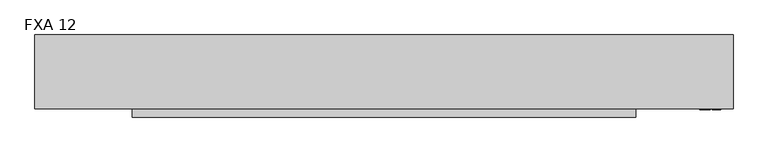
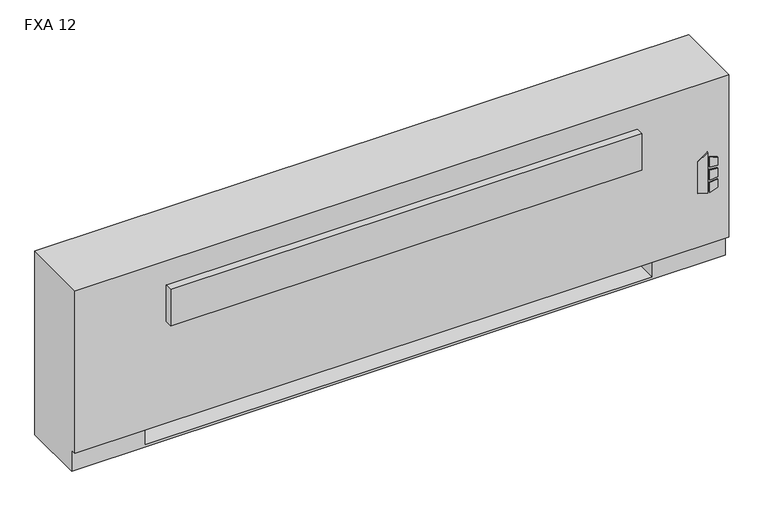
"""IFC4 building model written with IfcOpenShell, lengths in millimetres: proxy geometry, Vertical_Fan_Coil_Unit_-_FXA_-_IEC_-_4-Pipe_FS-FR_RH_2022 : FXA 12."""

from ifc_helpers import new_model, si_unit, point, frame, frame_2d, origin, place, context, project, spatial, polyline, circle_curve, trimmed, segment, composite_curve, outline, extrude, source, transform, mapped, element, save
from ifc_brep_helpers import plane_surface, revolved_surface, advanced_brep


def fxa_12_d5598fd8(model_context):
    return source(origin(), model_context, "Body", "SolidModel", [
        extrude(outline(polyline([(263.9480703, 1128.7868862), (254.0, 1160.9602728), (396.1709244, 1160.9602728), (373.1489183, 1128.7868862), (263.9480703, 1128.7868862)])), frame((0.0, 12.7, 0.0), z_axis=(0.0, 1.0, 0.0), x_axis=(0.0, 0.0, 1.0)), (0.0, 0.0, 1.0), 3.175),
        extrude(outline(polyline([(342.9473557, 1167.7186058), (339.7449632, 1193.8), (368.9738042, 1193.8), (377.0382193, 1167.7186058), (342.9473557, 1167.7186058)])), frame((0.0, 12.7, 0.0), z_axis=(0.0, 1.0, 0.0), x_axis=(0.0, 0.0, 1.0)), (0.0, 0.0, 1.0), 3.175),
        extrude(outline(polyline([(291.0838288, 1193.8), (287.4183279, 1167.7186058), (254.0, 1167.7186058), (262.6342372, 1193.8), (291.0838288, 1193.8)])), frame((0.0, 12.7, 0.0), z_axis=(0.0, 1.0, 0.0), x_axis=(0.0, 0.0, 1.0)), (0.0, 0.0, 1.0), 3.175),
        extrude(outline(polyline([(330.3989903, 1193.8), (332.6808166, 1167.7186058), (296.7432681, 1167.7186058), (299.4845331, 1193.8), (330.3989903, 1193.8)])), frame((0.0, 12.7, 0.0), z_axis=(0.0, 1.0, 0.0), x_axis=(0.0, 0.0, 1.0)), (0.0, 0.0, 1.0), 3.175),
        extrude(outline(polyline([(-806.45, 81.534), (-806.45, 223.266), (-685.8, 223.266), (-685.8, 81.534), (-806.45, 81.534)])), frame((0.0, 0.0, 327.025), z_axis=(0.0, 0.0, 1.0), x_axis=(1.0, 0.0, 0.0)), (0.0, 0.0, 1.0), 260.35),
        extrude(outline(composite_curve([segment(trimmed(circle_curve(frame_2d((1054.1, 130.175)), 9.525), [point((1044.575, 130.175))], [point((1063.625, 130.175))], False, "CARTESIAN"), True, "CONTINUOUS"), segment(trimmed(circle_curve(frame_2d((1054.1, 130.175)), 9.525), [point((1063.625, 130.175))], [point((1044.575, 130.175))], False, "CARTESIAN"), True, "CONTINUOUS")], self_intersect=False)), frame((0.0, 0.0, 101.6), z_axis=(0.0, 0.0, 1.0), x_axis=(1.0, 0.0, 0.0)), (0.0, 0.0, 1.0), 25.4),
        extrude(outline(polyline([(1155.7, 196.85), (1155.7, 63.5), (990.6, 63.5), (990.6, 196.85), (1155.7, 196.85)])), frame((0.0, 0.0, 127.0), z_axis=(0.0, 0.0, 1.0), x_axis=(1.0, 0.0, 0.0)), (0.0, 0.0, 1.0), 50.8),
        extrude(outline(polyline([(930.275, -9.525), (-625.475, -9.525), (-625.475, 15.875), (930.275, 15.875), (930.275, -9.525)])), frame((0.0, 0.0, 428.625), z_axis=(0.0, 0.0, 1.0), x_axis=(1.0, 0.0, 0.0)), (0.0, 0.0, 1.0), 127.0),
        extrude(outline(composite_curve([segment(trimmed(circle_curve(frame_2d((109.0168, 457.2)), 7.9375), [point((109.0168, 465.1375))], [point((109.0168, 449.2625))], False, "CARTESIAN"), True, "CONTINUOUS"), segment(trimmed(circle_curve(frame_2d((109.0168, 457.2)), 7.9375), [point((109.0168, 449.2625))], [point((109.0168, 465.1375))], False, "CARTESIAN"), True, "CONTINUOUS")], self_intersect=False)), frame((990.6, 0.0, 0.0), z_axis=(1.0, 0.0, 0.0), x_axis=(0.0, 1.0, 0.0)), (0.0, 0.0, 1.0), 50.8),
        extrude(outline(composite_curve([segment(trimmed(circle_curve(frame_2d((172.085, 460.0194)), 7.9375), [point((172.085, 467.9569))], [point((172.085, 452.0819))], False, "CARTESIAN"), True, "CONTINUOUS"), segment(trimmed(circle_curve(frame_2d((172.085, 460.0194)), 7.9375), [point((172.085, 452.0819))], [point((172.085, 467.9569))], False, "CARTESIAN"), True, "CONTINUOUS")], self_intersect=False)), frame((990.6, 0.0, 0.0), z_axis=(1.0, 0.0, 0.0), x_axis=(0.0, 1.0, 0.0)), (0.0, 0.0, 1.0), 50.8),
        extrude(outline(composite_curve([segment(trimmed(circle_curve(frame_2d((130.175, 554.99)), 7.9502), [point((130.175, 562.9402))], [point((130.175, 547.0398))], False, "CARTESIAN"), True, "CONTINUOUS"), segment(trimmed(circle_curve(frame_2d((130.175, 554.99)), 7.9502), [point((130.175, 547.0398))], [point((130.175, 562.9402))], False, "CARTESIAN"), True, "CONTINUOUS")], self_intersect=False)), frame((990.6, 0.0, 0.0), z_axis=(1.0, 0.0, 0.0), x_axis=(0.0, 1.0, 0.0)), (0.0, 0.0, 1.0), 50.8),
        extrude(outline(composite_curve([segment(trimmed(circle_curve(frame_2d((53.975, 416.56)), 7.9502), [point((53.975, 424.5102))], [point((53.975, 408.6098))], False, "CARTESIAN"), True, "CONTINUOUS"), segment(trimmed(circle_curve(frame_2d((53.975, 416.56)), 7.9502), [point((53.975, 408.6098))], [point((53.975, 424.5102))], False, "CARTESIAN"), True, "CONTINUOUS")], self_intersect=False)), frame((990.6, 0.0, 0.0), z_axis=(1.0, 0.0, 0.0), x_axis=(0.0, 1.0, 0.0)), (0.0, 0.0, 1.0), 50.8),
        advanced_brep(
        [(1231.9, 244.475, 641.35), (-927.1, 244.475, 641.35), (-927.1, 15.875, 641.35), (1231.9, 15.875, 641.35), (-927.1, 244.475, 0.0), (1231.9, 244.475, 0.0), (1231.9, 34.925, 0.0), (-927.1, 34.925, 0.0), (990.6, 244.475, 73.025), (1219.2, 244.475, 73.025), (1219.2, 244.475, 628.65), (990.6, 244.475, 628.65), (990.6, 244.475, 414.8650565), (1019.175, 244.475, 414.8650565), (1019.175, 244.475, 385.2349435), (990.6, 244.475, 385.2349435), (990.6, 244.475, 287.3375), (1019.175, 244.475, 287.3375), (1019.175, 244.475, 258.7625), (990.6, 244.475, 258.7625), (990.6, 244.475, 141.2875), (1019.175, 244.475, 141.2875), (1019.175, 244.475, 112.7125), (990.6, 244.475, 112.7125), (-685.8, 244.475, 628.65), (-914.4, 244.475, 628.65), (-914.4, 244.475, 73.025), (-685.8, 244.475, 73.025), (-685.8, 244.475, 112.7125), (-714.375, 244.475, 112.7125), (-714.375, 244.475, 141.2875), (-685.8, 244.475, 141.2875), (-685.8, 244.475, 258.7625), (-714.375, 244.475, 258.7625), (-714.375, 244.475, 287.3375), (-685.8, 244.475, 287.3375), (-685.8, 244.475, 385.2349435), (-714.375, 244.475, 385.2349435), (-714.375, 244.475, 414.8650565), (-685.8, 244.475, 414.8650565), (1008.8626, 244.475, 127.0), (997.7374, 244.475, 127.0), (1008.8626, 244.475, 400.05), (997.7374, 244.475, 400.05), (1008.8626, 244.475, 273.05), (997.7374, 244.475, 273.05), (-692.9374, 244.475, 127.0), (-704.0626, 244.475, 127.0), (-692.9374, 244.475, 273.05), (-704.0626, 244.475, 273.05), (-692.9374, 244.475, 400.05), (-704.0626, 244.475, 400.05), (-927.1, 34.925, 73.025), (-927.1, 15.875, 73.025), (1231.9, 15.875, 73.025), (1231.9, 34.925, 73.025), (-685.8, 34.925, 73.025), (-685.8, 219.075, 73.025), (990.6, 219.075, 73.025), (990.6, 34.925, 73.025), (990.6, 34.925, 6.35), (-685.8, 34.925, 6.35), (990.6, 41.275, 628.65), (1219.2, 41.275, 628.65), (1219.2, 41.275, 73.025), (990.6, 41.275, 73.025), (-685.8, 41.275, 628.65), (-685.8, 41.275, 73.025), (-914.4, 41.275, 73.025), (-914.4, 41.275, 628.65), (990.6, 219.075, 73.025), (990.6, 238.125, 112.7125), (990.6, 238.125, 141.2875), (990.6, 238.125, 258.7625), (990.6, 238.125, 287.3375), (990.6, 238.125, 385.2349435), (990.6, 238.125, 414.8650565), (-685.8, 219.075, 73.025), (-685.8, 238.125, 414.8650565), (-685.8, 238.125, 385.2349435), (-685.8, 238.125, 287.3375), (-685.8, 238.125, 258.7625), (-685.8, 238.125, 141.2875), (-685.8, 238.125, 112.7125), (-685.8, 219.075, 6.35), (990.6, 219.075, 6.35), (1019.175, 238.125, 112.7125), (1019.175, 238.125, 141.2875), (997.7374, 238.125, 127.0), (1008.8626, 238.125, 127.0), (1019.175, 238.125, 258.7625), (1019.175, 238.125, 287.3375), (997.7374, 238.125, 273.05), (1008.8626, 238.125, 273.05), (1019.175, 238.125, 385.2349435), (1019.175, 238.125, 414.8650565), (997.7374, 238.125, 400.05), (1008.8626, 238.125, 400.05), (-714.375, 238.125, 141.2875), (-714.375, 238.125, 112.7125), (-704.0626, 238.125, 127.0), (-692.9374, 238.125, 127.0), (-714.375, 238.125, 287.3375), (-714.375, 238.125, 258.7625), (-704.0626, 238.125, 273.05), (-692.9374, 238.125, 273.05), (-714.375, 238.125, 414.8650565), (-714.375, 238.125, 385.2349435), (-704.0626, 238.125, 400.05), (-692.9374, 238.125, 400.05)],
        [
            (0, 1),
            (1, 2),
            (2, 3),
            (3, 0),
            (4, 5),
            (5, 6),
            (6, 7),
            (7, 4),
            (0, 5),
            (4, 1),
            (8, 9),
            (9, 10),
            (10, 11),
            (11, 12),
            (12, 13),
            (13, 14),
            (14, 15),
            (15, 16),
            (16, 17),
            (17, 18),
            (18, 19),
            (19, 20),
            (20, 21),
            (21, 22),
            (22, 23),
            (23, 8),
            (24, 25),
            (25, 26),
            (26, 27),
            (27, 28),
            (28, 29),
            (29, 30),
            (30, 31),
            (31, 32),
            (32, 33),
            (33, 34),
            (34, 35),
            (35, 36),
            (36, 37),
            (37, 38),
            (38, 39),
            (39, 24),
            (40, 41, circle_curve(frame((1003.3, 244.475, 127.0), z_axis=(0.0, -1.0, 0.0), x_axis=(-1.0, 0.0, 0.0)), 5.5626)),
            (41, 40, circle_curve(frame((1003.3, 244.475, 127.0), z_axis=(0.0, -1.0, 0.0), x_axis=(-1.0, 0.0, 0.0)), 5.5626)),
            (42, 43, circle_curve(frame((1003.3, 244.475, 400.05), z_axis=(0.0, -1.0, 0.0), x_axis=(-1.0, 0.0, 0.0)), 5.5626)),
            (43, 42, circle_curve(frame((1003.3, 244.475, 400.05), z_axis=(0.0, -1.0, 0.0), x_axis=(-1.0, 0.0, 0.0)), 5.5626)),
            (44, 45, circle_curve(frame((1003.3, 244.475, 273.05), z_axis=(0.0, -1.0, 0.0), x_axis=(-1.0, 0.0, 0.0)), 5.5626)),
            (45, 44, circle_curve(frame((1003.3, 244.475, 273.05), z_axis=(0.0, -1.0, 0.0), x_axis=(-1.0, 0.0, 0.0)), 5.5626)),
            (46, 47, circle_curve(frame((-698.5, 244.475, 127.0), z_axis=(0.0, -1.0, 0.0), x_axis=(-1.0, 0.0, 0.0)), 5.5626)),
            (47, 46, circle_curve(frame((-698.5, 244.475, 127.0), z_axis=(0.0, -1.0, 0.0), x_axis=(-1.0, 0.0, 0.0)), 5.5626)),
            (48, 49, circle_curve(frame((-698.5, 244.475, 273.05), z_axis=(0.0, -1.0, 0.0), x_axis=(-1.0, 0.0, 0.0)), 5.5626)),
            (49, 48, circle_curve(frame((-698.5, 244.475, 273.05), z_axis=(0.0, -1.0, 0.0), x_axis=(-1.0, 0.0, 0.0)), 5.5626)),
            (50, 51, circle_curve(frame((-698.5, 244.475, 400.05), z_axis=(0.0, -1.0, 0.0), x_axis=(-1.0, 0.0, 0.0)), 5.5626)),
            (51, 50, circle_curve(frame((-698.5, 244.475, 400.05), z_axis=(0.0, -1.0, 0.0), x_axis=(-1.0, 0.0, 0.0)), 5.5626)),
            (7, 52),
            (52, 53),
            (53, 2),
            (53, 54),
            (54, 3),
            (54, 55),
            (55, 6),
            (52, 56),
            (56, 57),
            (57, 58),
            (58, 59),
            (59, 55),
            (59, 60),
            (60, 61),
            (61, 56),
            (62, 63),
            (63, 64),
            (64, 65),
            (65, 62),
            (66, 67),
            (67, 68),
            (68, 69),
            (69, 66),
            (65, 70),
            (70, 8),
            (23, 71),
            (71, 72),
            (72, 20),
            (19, 73),
            (73, 74),
            (74, 16),
            (15, 75),
            (75, 76),
            (76, 12),
            (11, 62),
            (64, 9),
            (63, 10),
            (69, 25),
            (24, 66),
            (68, 26),
            (67, 77),
            (77, 27),
            (39, 78),
            (78, 79),
            (79, 36),
            (35, 80),
            (80, 81),
            (81, 32),
            (31, 82),
            (82, 83),
            (83, 28),
            (57, 84),
            (84, 85),
            (85, 58),
            (85, 60),
            (84, 61),
            (71, 86),
            (86, 87),
            (87, 72),
            (88, 89, circle_curve(frame((1003.3, 238.125, 127.0), z_axis=(0.0, 1.0, 0.0), x_axis=(-1.0, 0.0, 0.0)), 5.5626)),
            (89, 88, circle_curve(frame((1003.3, 238.125, 127.0), z_axis=(0.0, 1.0, 0.0), x_axis=(-1.0, 0.0, 0.0)), 5.5626)),
            (73, 90),
            (90, 91),
            (91, 74),
            (92, 93, circle_curve(frame((1003.3, 238.125, 273.05), z_axis=(0.0, 1.0, 0.0), x_axis=(-1.0, 0.0, 0.0)), 5.5626)),
            (93, 92, circle_curve(frame((1003.3, 238.125, 273.05), z_axis=(0.0, 1.0, 0.0), x_axis=(-1.0, 0.0, 0.0)), 5.5626)),
            (75, 94),
            (94, 95),
            (95, 76),
            (96, 97, circle_curve(frame((1003.3, 238.125, 400.05), z_axis=(0.0, 1.0, 0.0), x_axis=(-1.0, 0.0, 0.0)), 5.5626)),
            (97, 96, circle_curve(frame((1003.3, 238.125, 400.05), z_axis=(0.0, 1.0, 0.0), x_axis=(-1.0, 0.0, 0.0)), 5.5626)),
            (98, 99),
            (99, 83),
            (82, 98),
            (100, 101, circle_curve(frame((-698.5, 238.125, 127.0), z_axis=(0.0, 1.0, 0.0), x_axis=(-1.0, 0.0, 0.0)), 5.5626)),
            (101, 100, circle_curve(frame((-698.5, 238.125, 127.0), z_axis=(0.0, 1.0, 0.0), x_axis=(-1.0, 0.0, 0.0)), 5.5626)),
            (102, 103),
            (103, 81),
            (80, 102),
            (104, 105, circle_curve(frame((-698.5, 238.125, 273.05), z_axis=(0.0, 1.0, 0.0), x_axis=(-1.0, 0.0, 0.0)), 5.5626)),
            (105, 104, circle_curve(frame((-698.5, 238.125, 273.05), z_axis=(0.0, 1.0, 0.0), x_axis=(-1.0, 0.0, 0.0)), 5.5626)),
            (106, 107),
            (107, 79),
            (78, 106),
            (108, 109, circle_curve(frame((-698.5, 238.125, 400.05), z_axis=(0.0, 1.0, 0.0), x_axis=(-1.0, 0.0, 0.0)), 5.5626)),
            (109, 108, circle_curve(frame((-698.5, 238.125, 400.05), z_axis=(0.0, 1.0, 0.0), x_axis=(-1.0, 0.0, 0.0)), 5.5626)),
            (87, 21),
            (86, 22),
            (91, 17),
            (90, 18),
            (95, 13),
            (94, 14),
            (30, 98),
            (99, 29),
            (34, 102),
            (103, 33),
            (38, 106),
            (107, 37),
            (88, 41),
            (40, 89),
            (96, 43),
            (42, 97),
            (92, 45),
            (44, 93),
            (100, 47),
            (46, 101),
            (104, 49),
            (48, 105),
            (108, 51),
            (50, 109),
        ],
        [
            plane_surface(frame((-927.1, 244.475, 641.35), z_axis=(0.0, 0.0, 1.0), x_axis=(-1.0, 0.0, 0.0))),
            plane_surface(frame((-927.1, 244.475, 0.0), z_axis=(0.0, 0.0, -1.0), x_axis=(1.0, 0.0, 0.0))),
            plane_surface(frame((1231.9, 244.475, 641.35), z_axis=(0.0, 1.0, 0.0), x_axis=(0.0, 0.0, -1.0))),
            plane_surface(frame((-927.1, 244.475, 641.35), z_axis=(-1.0, 0.0, 0.0), x_axis=(0.0, 0.0, -1.0))),
            plane_surface(frame((-927.1, 15.875, 641.35), z_axis=(0.0, -1.0, 0.0), x_axis=(0.0, 0.0, -1.0))),
            plane_surface(frame((1231.9, 15.875, 641.35), z_axis=(1.0, 0.0, 0.0), x_axis=(0.0, 0.0, -1.0))),
            plane_surface(frame((-927.1, 15.875, 73.025), z_axis=(0.0, 0.0, -1.0), x_axis=(1.0, 0.0, 0.0))),
            plane_surface(frame((-927.1, 34.925, 73.025), z_axis=(0.0, -1.0, 0.0), x_axis=(1.0, 0.0, 0.0))),
            plane_surface(frame((990.6, 41.275, 628.65), z_axis=(0.0, 1.0, 0.0), x_axis=(0.0, 0.0, -1.0))),
            plane_surface(frame((990.6, 41.275, 628.65), z_axis=(1.0, 0.0, 0.0), x_axis=(0.0, 1.0, 0.0))),
            plane_surface(frame((990.6, 41.275, 73.025), z_axis=(0.0, 0.0, 1.0), x_axis=(0.0, 1.0, 0.0))),
            plane_surface(frame((1219.2, 41.275, 73.025), z_axis=(-1.0, 0.0, 0.0), x_axis=(0.0, 1.0, 0.0))),
            plane_surface(frame((1219.2, 41.275, 628.65), z_axis=(0.0, 0.0, -1.0), x_axis=(0.0, 1.0, 0.0))),
            plane_surface(frame((-685.8, 41.275, 628.65), z_axis=(0.0, 0.0, -1.0), x_axis=(0.0, 1.0, 0.0))),
            plane_surface(frame((-914.4, 41.275, 628.65), z_axis=(1.0, 0.0, 0.0), x_axis=(0.0, 1.0, 0.0))),
            plane_surface(frame((-914.4, 41.275, 73.025), z_axis=(0.0, 0.0, 1.0), x_axis=(0.0, 1.0, 0.0))),
            plane_surface(frame((-685.8, 41.275, 73.025), z_axis=(-1.0, 0.0, 0.0), x_axis=(0.0, 1.0, 0.0))),
            plane_surface(frame((990.6, 219.075, 73.025), z_axis=(0.0, -1.0, 0.0), x_axis=(0.0, 0.0, -1.0))),
            plane_surface(frame((990.6, 219.075, 73.025), z_axis=(-1.0, 0.0, 0.0), x_axis=(0.0, -1.0, 0.0))),
            plane_surface(frame((990.6, 219.075, 6.35), z_axis=(0.0, 0.0, 1.0), x_axis=(0.0, -1.0, 0.0))),
            plane_surface(frame((-685.8, 219.075, 6.35), z_axis=(1.0, 0.0, 0.0), x_axis=(0.0, -1.0, 0.0))),
            plane_surface(frame((1019.175, 238.125, 141.2875), z_axis=(0.0, -1.0, 0.0), x_axis=(-1.0, 0.0, 0.0))),
            plane_surface(frame((990.6, 244.475, 141.2875), z_axis=(0.0, 0.0, 1.0), x_axis=(0.0, -1.0, 0.0))),
            plane_surface(frame((1019.175, 244.475, 141.2875), z_axis=(1.0, 0.0, 0.0), x_axis=(0.0, -1.0, 0.0))),
            plane_surface(frame((1019.175, 244.475, 112.7125), z_axis=(0.0, 0.0, -1.0), x_axis=(0.0, -1.0, 0.0))),
            plane_surface(frame((990.6, 244.475, 287.3375), z_axis=(0.0, 0.0, 1.0), x_axis=(0.0, -1.0, 0.0))),
            plane_surface(frame((1019.175, 244.475, 287.3375), z_axis=(1.0, 0.0, 0.0), x_axis=(0.0, -1.0, 0.0))),
            plane_surface(frame((1019.175, 244.475, 258.7625), z_axis=(0.0, 0.0, -1.0), x_axis=(0.0, -1.0, 0.0))),
            plane_surface(frame((990.6, 244.475, 414.8650565), z_axis=(0.0, 0.0, 1.0), x_axis=(0.0, -1.0, 0.0))),
            plane_surface(frame((1019.175, 244.475, 414.8650565), z_axis=(1.0, 0.0, 0.0), x_axis=(0.0, -1.0, 0.0))),
            plane_surface(frame((1019.175, 244.475, 385.2349435), z_axis=(0.0, 0.0, -1.0), x_axis=(0.0, -1.0, 0.0))),
            plane_surface(frame((-714.375, 244.475, 141.2875), z_axis=(0.0, 0.0, 1.0), x_axis=(0.0, -1.0, 0.0))),
            plane_surface(frame((-685.8, 244.475, 112.7125), z_axis=(0.0, 0.0, -1.0), x_axis=(0.0, -1.0, 0.0))),
            plane_surface(frame((-714.375, 244.475, 112.7125), z_axis=(-1.0, 0.0, 0.0), x_axis=(0.0, -1.0, 0.0))),
            plane_surface(frame((-714.375, 244.475, 287.3375), z_axis=(0.0, 0.0, 1.0), x_axis=(0.0, -1.0, 0.0))),
            plane_surface(frame((-685.8, 244.475, 258.7625), z_axis=(0.0, 0.0, -1.0), x_axis=(0.0, -1.0, 0.0))),
            plane_surface(frame((-714.375, 244.475, 258.7625), z_axis=(-1.0, 0.0, 0.0), x_axis=(0.0, -1.0, 0.0))),
            plane_surface(frame((-714.375, 244.475, 414.8650565), z_axis=(0.0, 0.0, 1.0), x_axis=(0.0, -1.0, 0.0))),
            plane_surface(frame((-685.8, 244.475, 385.2349435), z_axis=(0.0, 0.0, -1.0), x_axis=(0.0, -1.0, 0.0))),
            plane_surface(frame((-714.375, 244.475, 385.2349435), z_axis=(-1.0, 0.0, 0.0), x_axis=(0.0, -1.0, 0.0))),
            revolved_surface(polyline([(997.7374, 238.125, 127.0), (997.7374, 244.475, 127.0)]), (1003.3, 244.475, 127.0), (0.0, -1.0, 0.0)),
            revolved_surface(polyline([(997.7374, 238.125, 400.05), (997.7374, 244.475, 400.05)]), (1003.3, 244.475, 400.05), (0.0, -1.0, 0.0)),
            revolved_surface(polyline([(997.7374, 238.125, 273.05), (997.7374, 244.475, 273.05)]), (1003.3, 244.475, 273.05), (0.0, -1.0, 0.0)),
            revolved_surface(polyline([(-704.0626, 238.125, 127.0), (-704.0626, 244.475, 127.0)]), (-698.5, 244.475, 127.0), (0.0, -1.0, 0.0)),
            revolved_surface(polyline([(-704.0626, 238.125, 273.05), (-704.0626, 244.475, 273.05)]), (-698.5, 244.475, 273.05), (0.0, -1.0, 0.0)),
            revolved_surface(polyline([(-704.0626, 238.125, 400.05), (-704.0626, 244.475, 400.05)]), (-698.5, 244.475, 400.05), (0.0, -1.0, 0.0)),
        ],
        [
            (0, [[1, 2, 3, 4]]),
            (1, [[5, 6, 7, 8]]),
            (2, [[-1, 9, -5, 10], [11, 12, 13, 14, 15, 16, 17, 18, 19, 20, 21, 22, 23, 24, 25, 26], [27, 28, 29, 30, 31, 32, 33, 34, 35, 36, 37, 38, 39, 40, 41, 42], [43, 44], [45, 46], [47, 48], [49, 50], [51, 52], [53, 54]]),
            (3, [[-2, -10, -8, 55, 56, 57]]),
            (4, [[-3, -57, 58, 59]]),
            (5, [[-4, -59, 60, 61, -6, -9]]),
            (6, [[-56, 62, 63, 64, 65, 66, -60, -58]]),
            (7, [[-7, -61, -66, 67, 68, 69, -62, -55]]),
            (8, [[70, 71, 72, 73]]),
            (8, [[74, 75, 76, 77]]),
            (9, [[-73, 78, 79, -26, 80, 81, 82, -22, 83, 84, 85, -18, 86, 87, 88, -14, 89]]),
            (10, [[-72, 90, -11, -79, -78]]),
            (11, [[-71, 91, -12, -90]]),
            (12, [[-70, -89, -13, -91]]),
            (13, [[-77, 92, -27, 93]]),
            (14, [[-76, 94, -28, -92]]),
            (15, [[-75, 95, 96, -29, -94]]),
            (16, [[-74, -93, -42, 97, 98, 99, -38, 100, 101, 102, -34, 103, 104, 105, -30, -96, -95]]),
            (17, [[-64, 106, 107, 108]]),
            (18, [[-108, 109, -67, -65]]),
            (19, [[-107, 110, -68, -109]]),
            (20, [[-106, -63, -69, -110]]),
            (21, [[111, 112, 113, -81], [114, 115]]),
            (21, [[116, 117, 118, -84], [119, 120]]),
            (21, [[121, 122, 123, -87], [124, 125]]),
            (21, [[126, 127, -104, 128], [129, 130]]),
            (21, [[131, 132, -101, 133], [134, 135]]),
            (21, [[136, 137, -98, 138], [139, 140]]),
            (22, [[-113, 141, -23, -82]]),
            (23, [[-112, 142, -24, -141]]),
            (24, [[-111, -80, -25, -142]]),
            (25, [[-118, 143, -19, -85]]),
            (26, [[-117, 144, -20, -143]]),
            (27, [[-116, -83, -21, -144]]),
            (28, [[-123, 145, -15, -88]]),
            (29, [[-122, 146, -16, -145]]),
            (30, [[-121, -86, -17, -146]]),
            (31, [[-128, -103, -33, 147]]),
            (32, [[-127, 148, -31, -105]]),
            (33, [[-126, -147, -32, -148]]),
            (34, [[-133, -100, -37, 149]]),
            (35, [[-132, 150, -35, -102]]),
            (36, [[-131, -149, -36, -150]]),
            (37, [[-138, -97, -41, 151]]),
            (38, [[-137, 152, -39, -99]]),
            (39, [[-136, -151, -40, -152]]),
            (40, [[153, -43, 154, -114]]),
            (40, [[-153, -115, -154, -44]]),
            (41, [[155, -45, 156, -124]]),
            (41, [[-155, -125, -156, -46]]),
            (42, [[157, -47, 158, -119]]),
            (42, [[-157, -120, -158, -48]]),
            (43, [[159, -49, 160, -129]]),
            (43, [[-159, -130, -160, -50]]),
            (44, [[161, -51, 162, -134]]),
            (44, [[-161, -135, -162, -52]]),
            (45, [[163, -53, 164, -139]]),
            (45, [[-163, -140, -164, -54]]),
        ],
    ),
    ])


if __name__ == "__main__":
    model = new_model("IFC4")
    model_context = context("Model", 3, world=origin())
    ifc_project = project(units=[si_unit("LENGTHUNIT", "METRE", prefix="MILLI")], contexts=[model_context])
    site = spatial("IfcSite", under=ifc_project)
    building = spatial("IfcBuilding", under=site)
    placement = place(None, origin())
    fxa_12_shape = fxa_12_d5598fd8(model_context)
    element("IfcBuildingElementProxy", 1, Name="Vertical_Fan_Coil_Unit_-_FXA_-_IEC_-_4-Pipe_FS-FR_RH_2022 : FXA 12", ObjectType="Vertical_Fan_Coil_Unit_-_FXA_-_IEC_-_4-Pipe_FS-FR_RH_2022 : FXA 12", at=placement, inside=building, context=model_context, shape_type="MappedRepresentation", body=[
        mapped(fxa_12_shape, transform((0.0, 0.0, 0.0), x_axis=(1.0, 0.0, 0.0), y_axis=(0.0, 1.0, 0.0), z_axis=(0.0, 0.0, 1.0))),
    ])
    save(model, "model.ifc")
